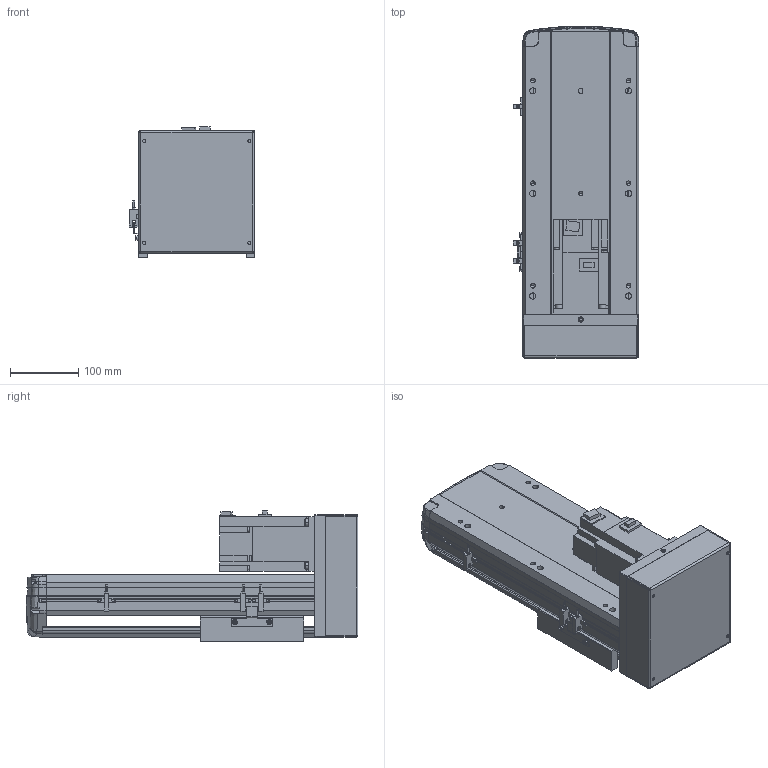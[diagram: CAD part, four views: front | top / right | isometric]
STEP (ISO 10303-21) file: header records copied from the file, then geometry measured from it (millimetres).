
FILE_DESCRIPTION (( 'STEP AP203' ), '1' );
FILE_NAME ('4.STEP', '2020-11-21T00:47:36', ( '' ), ( '' ), 'SwSTEP 2.0', 'SolidWorks 2016', '' );
FILE_SCHEMA (( 'CONFIG_CONTROL_DESIGN' ));
Length unit declared in the file: millimetre
Products named in the file (7): BTH17-BM-02-T75; BTH17-BM-T75; BTH17-BM-01-T75; BTH17-BL-BM-BR-菁釱; 4; BTH17-BM-04-T75; BTH17-BM-HZ-T75_賑釱
Assembly tree (8 placements, depth 2):
  4
    BTH17-BL-BM-BR-菁釱
    BTH17-BM-01-T75
    BTH17-BM-02-T75
    BTH17-BM-04-T75  x3
    BTH17-BM-HZ-T75_賑釱
    BTH17-BM-T75
Bounding box: 183.7 x 485.53 x 190.8 mm (x, y, z)
Volume: 4335799.1 mm3; surface area: 818815.2 mm2
Topology: 14 solids, 14 shells, 1538 faces, 4158 edges, 2667 vertices
Faces by surface type: plane 839, cylinder 394, bspline 203, cone 79, torus 23
Entity records: 53262 total; most frequent: CARTESIAN_POINT 20577, ORIENTED_EDGE 7146, DIRECTION 5873, EDGE_CURVE 3573, VERTEX_POINT 2307, LINE 2067, VECTOR 2067, AXIS2_PLACEMENT_3D 1903
